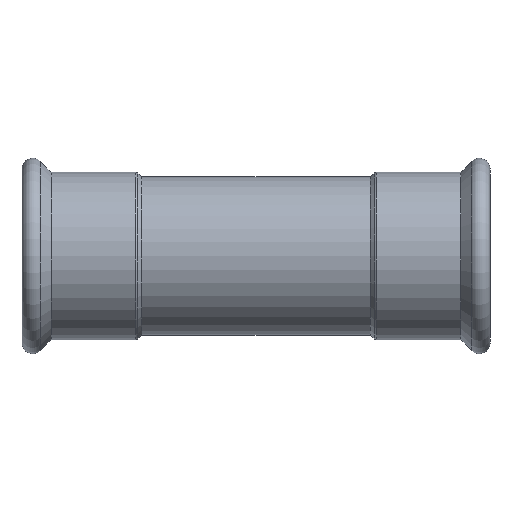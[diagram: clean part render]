
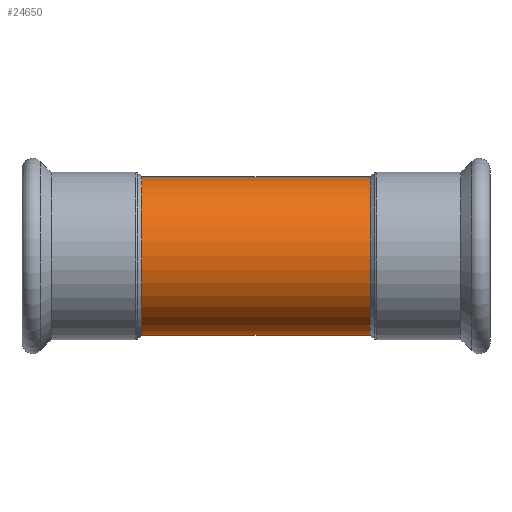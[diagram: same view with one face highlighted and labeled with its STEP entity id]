
A CAD part, top view. The second image highlights one B-rep face of the part: STEP entity #24650.
In plain terms, the highlighted cylindrical face has radius 44.45 mm (diameter 88.9 mm), a partial arc.
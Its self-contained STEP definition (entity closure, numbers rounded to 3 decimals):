
#4290=CARTESIAN_POINT('',(94.344,138.195,
0.));
#4300=DIRECTION('',(1.,0.,0.));
#4310=DIRECTION('',(0.,0.,1.));
#4320=AXIS2_PLACEMENT_3D('',#4290,#4300,#4310);
#4330=CYLINDRICAL_SURFACE('',#4320,44.45);
#13450=CARTESIAN_POINT('',(-33.656,138.195,44.45));
#13460=VERTEX_POINT('',#13450);
#13540=CARTESIAN_POINT('',(-33.656,138.195,-44.45));
#13550=VERTEX_POINT('',#13540);
#13580=CARTESIAN_POINT('',(-33.656,138.195,
0.));
#13590=DIRECTION('',(1.,0.,0.));
#13600=DIRECTION('',(0.,0.,1.));
#13610=AXIS2_PLACEMENT_3D('',#13580,#13590,#13600);
#13620=CIRCLE('',#13610,44.45);
#13770=CARTESIAN_POINT('',(94.344,138.195,-44.45));
#13780=VERTEX_POINT('',#13770);
#13870=CARTESIAN_POINT('',(94.344,138.195,44.45));
#13880=VERTEX_POINT('',#13870);
#13910=CARTESIAN_POINT('',(94.344,138.195,
0.));
#13920=DIRECTION('',(1.,0.,0.));
#13930=DIRECTION('',(0.,0.,-1.));
#13940=AXIS2_PLACEMENT_3D('',#13910,#13920,#13930);
#13950=CIRCLE('',#13940,44.45);
#20190=CARTESIAN_POINT('',(94.344,138.195,-44.45));
#20200=DIRECTION('',(1.,0.,0.));
#20210=VECTOR('',#20200,1.);
#20220=LINE('',#20190,#20210);
#20230=EDGE_CURVE('',#13550,#13780,#20220,.T.);
#20260=CARTESIAN_POINT('',(94.344,138.195,44.45));
#20270=DIRECTION('',(1.,0.,0.));
#20280=VECTOR('',#20270,1.);
#20290=LINE('',#20260,#20280);
#20300=EDGE_CURVE('',#13460,#13880,#20290,.T.);
#24570=EDGE_CURVE('',#13880,#13780,#13950,.T.);
#24580=ORIENTED_EDGE('',*,*,#24570,.F.);
#24590=ORIENTED_EDGE('',*,*,#20230,.T.);
#24600=EDGE_CURVE('',#13460,#13550,#13620,.T.);
#24610=ORIENTED_EDGE('',*,*,#24600,.T.);
#24620=ORIENTED_EDGE('',*,*,#20300,.F.);
#24630=EDGE_LOOP('',(#24620,#24610,#24590,#24580));
#24640=FACE_OUTER_BOUND('',#24630,.T.);
#24650=ADVANCED_FACE('',(#24640),#4330,.T.);
